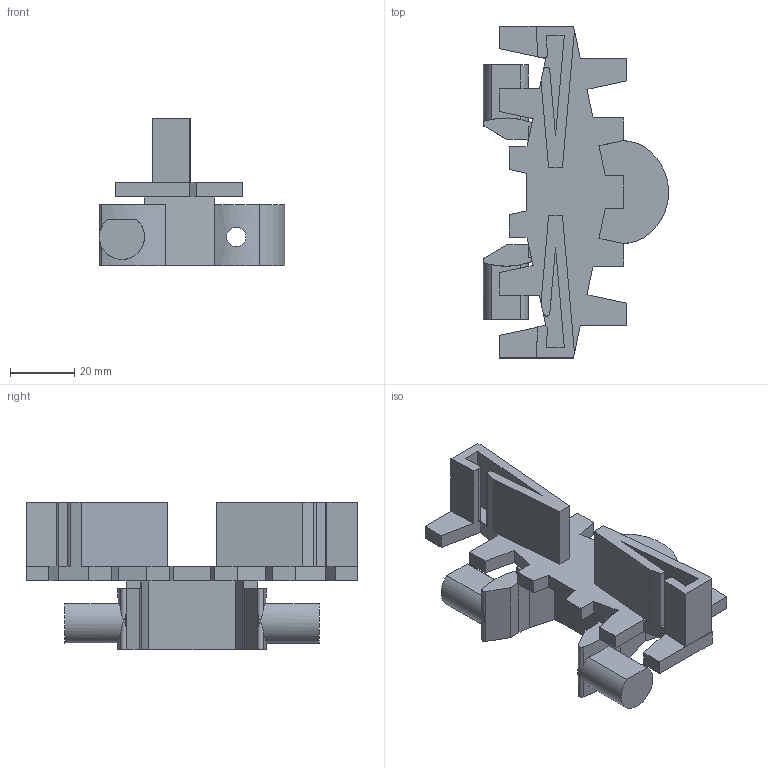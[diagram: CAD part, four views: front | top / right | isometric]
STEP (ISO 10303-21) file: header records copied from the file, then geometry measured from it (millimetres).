
FILE_DESCRIPTION (( 'STEP AP214' ), '1' );
FILE_NAME ('FCCT 5A20.step', '2017-04-04T13:28:58', ( '' ), ( '' ), 'SwSTEP 2.0', 'SolidWorks 2015', '' );
FILE_SCHEMA (( 'AUTOMOTIVE_DESIGN' ));
Length unit declared in the file: millimetre
Products named in the file (1): FCCT 5A20
Bounding box: 57.5 x 103 x 45.9 mm (x, y, z)
Volume: 50612.9 mm3; surface area: 22078.7 mm2
Topology: 1 solids, 1 shells, 117 faces, 335 edges, 220 vertices
Faces by surface type: plane 96, cylinder 21
Entity records: 4064 total; most frequent: CARTESIAN_POINT 964, ORIENTED_EDGE 670, DIRECTION 594, EDGE_CURVE 335, LINE 278, VECTOR 278, VERTEX_POINT 220, AXIS2_PLACEMENT_3D 158
